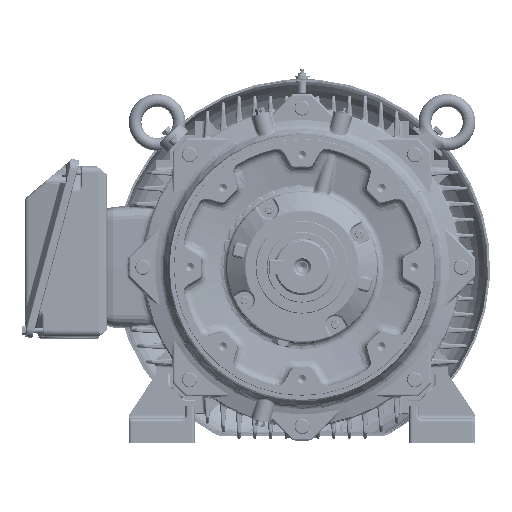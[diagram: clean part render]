
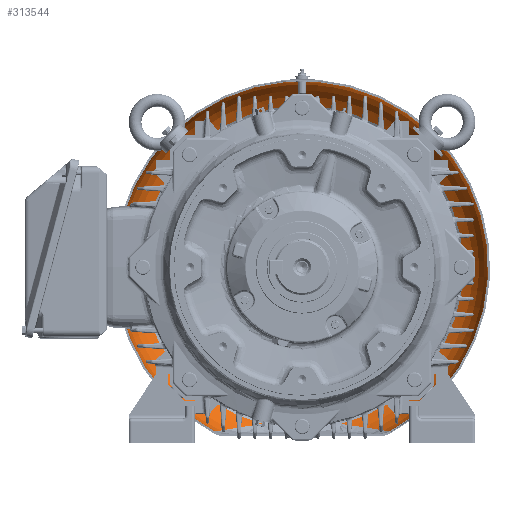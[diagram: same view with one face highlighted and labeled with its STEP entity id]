
A CAD part, front view. The second image highlights one B-rep face of the part: STEP entity #313544.
In plain terms, the highlighted toroidal (fillet/blend) face has major radius 217 mm and minor radius 78 mm.
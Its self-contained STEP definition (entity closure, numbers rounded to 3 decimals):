
#7120=B_SPLINE_CURVE_WITH_KNOTS('',3,(#512468,#512469,#512470,#512471,#512472,
#512473,#512474,#512475,#512476,#512477,#512478,#512479,#512480,#512481,
#512482,#512483,#512484,#512485,#512486,#512487,#512488,#512489,#512490,
#512491,#512492,#512493,#512494,#512495,#512496,#512497,#512498,#512499,
#512500,#512501,#512502,#512503,#512504),.UNSPECIFIED.,.F.,.F.,(4,1,1,1,
1,1,1,1,1,1,1,1,1,1,1,1,1,1,1,1,1,1,1,1,1,1,1,1,1,1,1,1,1,1,4),(0.,0.063,
0.094,0.125,0.156,0.188,0.219,0.234,0.25,0.266,0.281,0.313,
0.375,0.406,0.438,0.469,0.484,0.492,0.5,0.508,0.516,
0.531,0.563,0.594,0.625,0.688,0.719,0.734,0.75,0.766,0.781,
0.813,0.875,0.938,1.),.UNSPECIFIED.);
#7121=B_SPLINE_CURVE_WITH_KNOTS('',3,(#512508,#512509,#512510,#512511,#512512,
#512513,#512514,#512515,#512516,#512517,#512518,#512519,#512520,#512521,
#512522,#512523,#512524,#512525,#512526,#512527,#512528,#512529,#512530,
#512531,#512532,#512533,#512534,#512535,#512536,#512537,#512538,#512539,
#512540,#512541,#512542,#512543,#512544,#512545,#512546),.UNSPECIFIED.,
 .F.,.F.,(4,1,1,1,1,1,1,1,1,1,1,1,1,1,1,1,1,1,1,1,1,1,1,1,1,1,1,1,1,1,1,
1,1,1,1,1,4),(0.,0.063,0.125,0.188,0.219,0.234,0.25,0.266,0.281,
0.313,0.375,0.406,0.438,0.469,0.484,0.492,0.5,0.508,0.516,
0.531,0.563,0.594,0.625,0.656,0.688,0.719,0.734,0.742,
0.75,0.758,0.766,0.781,0.813,0.844,0.875,0.938,1.),
 .UNSPECIFIED.);
#9138=TOROIDAL_SURFACE('',#331606,217.,78.);
#97849=ORIENTED_EDGE('',*,*,#140410,.T.);
#97850=ORIENTED_EDGE('',*,*,#140411,.T.);
#97851=ORIENTED_EDGE('',*,*,#140412,.F.);
#97852=ORIENTED_EDGE('',*,*,#140413,.T.);
#140410=EDGE_CURVE('',#164092,#164093,#174188,.T.);
#140411=EDGE_CURVE('',#164093,#164094,#7120,.T.);
#140412=EDGE_CURVE('',#164095,#164094,#174189,.T.);
#140413=EDGE_CURVE('',#164095,#164092,#7121,.T.);
#164092=VERTEX_POINT('',#512466);
#164093=VERTEX_POINT('',#512467);
#164094=VERTEX_POINT('',#512505);
#164095=VERTEX_POINT('',#512507);
#174188=CIRCLE('',#331607,295.);
#174189=CIRCLE('',#331608,256.);
#188167=EDGE_LOOP('',(#97849,#97850,#97851,#97852));
#204382=FACE_BOUND('',#188167,.T.);
#313544=ADVANCED_FACE('',(#204382),#9138,.F.);
#331606=AXIS2_PLACEMENT_3D('',#512464,#380259,#380260);
#331607=AXIS2_PLACEMENT_3D('',#512465,#380261,#380262);
#331608=AXIS2_PLACEMENT_3D('',#512506,#380263,#380264);
#380259=DIRECTION('',(0.,-1.,0.));
#380260=DIRECTION('',(0.,0.,1.));
#380261=DIRECTION('',(0.,-1.,0.));
#380262=DIRECTION('',(0.,0.,1.));
#380263=DIRECTION('',(0.,-1.,0.));
#380264=DIRECTION('',(0.,0.,1.));
#512464=CARTESIAN_POINT('',(0.,739.653,0.));
#512465=CARTESIAN_POINT('',(0.,739.653,0.));
#512466=CARTESIAN_POINT('',(138.506,739.653,-260.463));
#512467=CARTESIAN_POINT('',(-138.403,739.653,-260.518));
#512468=CARTESIAN_POINT('',(-138.403,739.653,-260.518));
#512469=CARTESIAN_POINT('',(-138.403,741.986,-260.518));
#512470=CARTESIAN_POINT('',(-138.151,745.478,-260.473));
#512471=CARTESIAN_POINT('',(-137.322,750.069,-260.33));
#512472=CARTESIAN_POINT('',(-136.44,753.52,-260.178));
#512473=CARTESIAN_POINT('',(-135.365,756.783,-259.992));
#512474=CARTESIAN_POINT('',(-134.061,760.018,-259.766));
#512475=CARTESIAN_POINT('',(-132.791,762.658,-259.547));
#512476=CARTESIAN_POINT('',(-131.678,764.72,-259.356));
#512477=CARTESIAN_POINT('',(-130.764,766.291,-259.199));
#512478=CARTESIAN_POINT('',(-129.899,767.683,-259.051));
#512479=CARTESIAN_POINT('',(-128.657,769.566,-258.838));
#512480=CARTESIAN_POINT('',(-126.354,772.762,-258.442));
#512481=CARTESIAN_POINT('',(-123.393,776.254,-257.936));
#512482=CARTESIAN_POINT('',(-120.132,779.562,-257.384));
#512483=CARTESIAN_POINT('',(-117.538,781.955,-256.948));
#512484=CARTESIAN_POINT('',(-115.261,783.871,-256.568));
#512485=CARTESIAN_POINT('',(-113.601,785.177,-256.292));
#512486=CARTESIAN_POINT('',(-112.645,785.904,-256.134));
#512487=CARTESIAN_POINT('',(-111.892,786.464,-256.009));
#512488=CARTESIAN_POINT('',(-111.236,786.942,-255.9));
#512489=CARTESIAN_POINT('',(-110.319,787.598,-255.749));
#512490=CARTESIAN_POINT('',(-108.71,788.714,-255.483));
#512491=CARTESIAN_POINT('',(-106.348,790.257,-255.096));
#512492=CARTESIAN_POINT('',(-103.435,792.016,-254.623));
#512493=CARTESIAN_POINT('',(-99.441,794.246,-253.983));
#512494=CARTESIAN_POINT('',(-95.297,796.302,-253.332));
#512495=CARTESIAN_POINT('',(-91.537,797.961,-252.755));
#512496=CARTESIAN_POINT('',(-89.366,798.865,-252.426));
#512497=CARTESIAN_POINT('',(-87.687,799.536,-252.174));
#512498=CARTESIAN_POINT('',(-86.118,800.14,-251.941));
#512499=CARTESIAN_POINT('',(-83.973,800.935,-251.624));
#512500=CARTESIAN_POINT('',(-80.207,802.251,-251.075));
#512501=CARTESIAN_POINT('',(-74.733,803.95,-250.305));
#512502=CARTESIAN_POINT('',(-68.041,805.718,-249.415));
#512503=CARTESIAN_POINT('',(-63.496,806.733,-248.851));
#512504=CARTESIAN_POINT('',(-61.203,807.203,-248.576));
#512505=CARTESIAN_POINT('',(-61.203,807.203,-248.576));
#512506=CARTESIAN_POINT('',(0.,807.203,0.));
#512507=CARTESIAN_POINT('',(61.301,807.203,-248.552));
#512508=CARTESIAN_POINT('',(61.301,807.203,-248.552));
#512509=CARTESIAN_POINT('',(63.6,806.731,-248.826));
#512510=CARTESIAN_POINT('',(68.157,805.714,-249.391));
#512511=CARTESIAN_POINT('',(74.863,803.942,-250.279));
#512512=CARTESIAN_POINT('',(80.347,802.238,-251.049));
#512513=CARTESIAN_POINT('',(84.118,800.918,-251.597));
#512514=CARTESIAN_POINT('',(86.266,800.121,-251.914));
#512515=CARTESIAN_POINT('',(87.836,799.517,-252.147));
#512516=CARTESIAN_POINT('',(89.521,798.842,-252.4));
#512517=CARTESIAN_POINT('',(91.698,797.934,-252.729));
#512518=CARTESIAN_POINT('',(95.469,796.268,-253.306));
#512519=CARTESIAN_POINT('',(99.624,794.202,-253.957));
#512520=CARTESIAN_POINT('',(103.627,791.962,-254.598));
#512521=CARTESIAN_POINT('',(106.546,790.195,-255.071));
#512522=CARTESIAN_POINT('',(108.912,788.645,-255.458));
#512523=CARTESIAN_POINT('',(110.524,787.524,-255.723));
#512524=CARTESIAN_POINT('',(111.443,786.865,-255.874));
#512525=CARTESIAN_POINT('',(112.101,786.384,-255.983));
#512526=CARTESIAN_POINT('',(112.852,785.824,-256.107));
#512527=CARTESIAN_POINT('',(113.806,785.095,-256.265));
#512528=CARTESIAN_POINT('',(115.464,783.788,-256.539));
#512529=CARTESIAN_POINT('',(117.736,781.871,-256.917));
#512530=CARTESIAN_POINT('',(120.323,779.478,-257.351));
#512531=CARTESIAN_POINT('',(122.761,776.997,-257.762));
#512532=CARTESIAN_POINT('',(125.047,774.428,-258.15));
#512533=CARTESIAN_POINT('',(127.175,771.773,-258.514));
#512534=CARTESIAN_POINT('',(128.815,769.487,-258.795));
#512535=CARTESIAN_POINT('',(129.887,767.857,-258.98));
#512536=CARTESIAN_POINT('',(130.484,766.905,-259.082));
#512537=CARTESIAN_POINT('',(130.905,766.215,-259.155));
#512538=CARTESIAN_POINT('',(131.379,765.409,-259.236));
#512539=CARTESIAN_POINT('',(131.969,764.369,-259.337));
#512540=CARTESIAN_POINT('',(132.965,762.518,-259.508));
#512541=CARTESIAN_POINT('',(134.241,759.845,-259.726));
#512542=CARTESIAN_POINT('',(135.547,756.58,-259.949));
#512543=CARTESIAN_POINT('',(136.979,752.164,-260.195));
#512544=CARTESIAN_POINT('',(138.182,746.537,-260.405));
#512545=CARTESIAN_POINT('',(138.506,741.955,-260.463));
#512546=CARTESIAN_POINT('',(138.506,739.653,-260.463));
